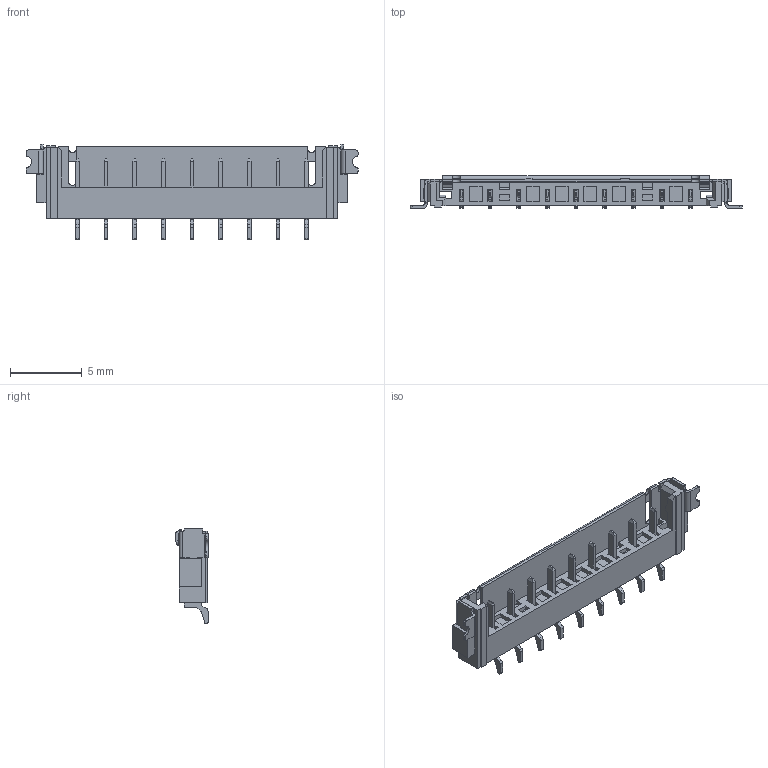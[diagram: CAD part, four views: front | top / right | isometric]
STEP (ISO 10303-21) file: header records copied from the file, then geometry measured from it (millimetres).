
FILE_DESCRIPTION((''),'2;1');
FILE_NAME('S-51370-009XX-001','2017-11-21T',('k86919'),(''),'PRO/ENGINEER BY PARAMETRIC TECHNOLOGY CORPORATION, 2009360','PRO/ENGINEER BY PARAMETRIC TECHNOLOGY CORPORATION, 2009360','');
FILE_SCHEMA(('CONFIG_CONTROL_DESIGN'));
Length unit declared in the file: millimetre
Products named in the file (1): S-51370-009XX-001
Bounding box: 23.2 x 2.28 x 6.67 mm (x, y, z)
Volume: 111.8 mm3; surface area: 491.4 mm2
Topology: 1 solids, 3 shells, 816 faces, 2330 edges, 1512 vertices
Faces by surface type: plane 619, cylinder 197
Entity records: 26454 total; most frequent: CARTESIAN_POINT 4784, ORIENTED_EDGE 4660, DIRECTION 4337, EDGE_CURVE 2330, VECTOR 1901, LINE 1901, VERTEX_POINT 1512, AXIS2_PLACEMENT_3D 1218
